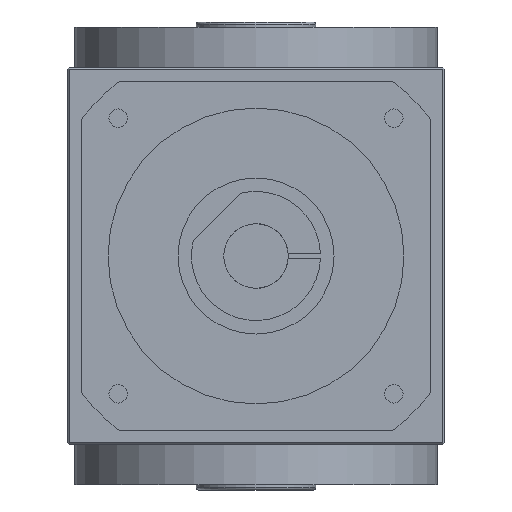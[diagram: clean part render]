
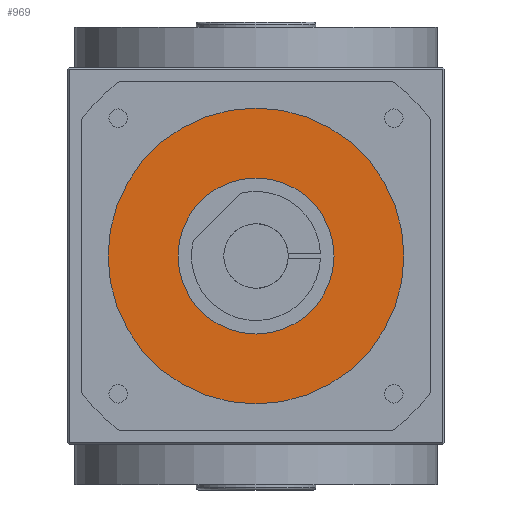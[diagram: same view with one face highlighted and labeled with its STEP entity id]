
A CAD part, front view. The second image highlights one B-rep face of the part: STEP entity #969.
In plain terms, the highlighted planar face has unit normal (0, -1, 0) as drawn and (0, 0, -1) by its records, which use the part's own axes.
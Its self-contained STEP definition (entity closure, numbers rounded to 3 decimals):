
#30 = VERTEX_POINT ( 'NONE', #2663 ) ;
#311 = DIRECTION ( 'NONE',  ( 0., 0., -1. ) ) ;
#969 = ADVANCED_FACE ( 'NONE', ( #8055, #13158 ), #3280, .T. ) ;
#1390 = CARTESIAN_POINT ( 'NONE',  ( 0., 0., -151. ) ) ;
#2486 = EDGE_CURVE ( 'NONE', #14362, #4705, #5961, .T. ) ;
#2663 = CARTESIAN_POINT ( 'NONE',  ( 55., 0., -151. ) ) ;
#2872 = EDGE_CURVE ( 'NONE', #4705, #14362, #3905, .T. ) ;
#3280 = PLANE ( 'NONE',  #15244 ) ;
#3905 = CIRCLE ( 'NONE', #5211, 29. ) ;
#3914 = CARTESIAN_POINT ( 'NONE',  ( 0., 0., -151. ) ) ;
#4245 = CARTESIAN_POINT ( 'NONE',  ( 0., 0., -151. ) ) ;
#4264 = ORIENTED_EDGE ( 'NONE', *, *, #2486, .T. ) ;
#4705 = VERTEX_POINT ( 'NONE', #7140 ) ;
#5211 = AXIS2_PLACEMENT_3D ( 'NONE', #3914, #8935, #13949 ) ;
#5576 = CARTESIAN_POINT ( 'NONE',  ( 0., 0., -151. ) ) ;
#5833 = CARTESIAN_POINT ( 'NONE',  ( -29., 0., -151. ) ) ;
#5961 = CIRCLE ( 'NONE', #15169, 29. ) ;
#6268 = ORIENTED_EDGE ( 'NONE', *, *, #2872, .T. ) ;
#6391 = DIRECTION ( 'NONE',  ( -1., 0., 0. ) ) ;
#6636 = DIRECTION ( 'NONE',  ( 0., 0., -1. ) ) ;
#7006 = EDGE_CURVE ( 'NONE', #30, #11692, #8021, .T. ) ;
#7140 = CARTESIAN_POINT ( 'NONE',  ( 29., 0., -151. ) ) ;
#7489 = AXIS2_PLACEMENT_3D ( 'NONE', #4245, #6636, #13056 ) ;
#7972 = DIRECTION ( 'NONE',  ( 0., 0., -1. ) ) ;
#8021 = CIRCLE ( 'NONE', #14589, 55. ) ;
#8055 = FACE_OUTER_BOUND ( 'NONE', #14355, .T. ) ;
#8935 = DIRECTION ( 'NONE',  ( 0., 0., 1. ) ) ;
#9049 = DIRECTION ( 'NONE',  ( -1., 0., 0. ) ) ;
#9369 = DIRECTION ( 'NONE',  ( -1., 0., 0. ) ) ;
#10336 = EDGE_CURVE ( 'NONE', #11692, #30, #14860, .T. ) ;
#10637 = ORIENTED_EDGE ( 'NONE', *, *, #7006, .T. ) ;
#11692 = VERTEX_POINT ( 'NONE', #15151 ) ;
#12621 = EDGE_LOOP ( 'NONE', ( #4264, #6268 ) ) ;
#12648 = CARTESIAN_POINT ( 'NONE',  ( 0., 0., -151. ) ) ;
#12889 = DIRECTION ( 'NONE',  ( 0., 0., 1. ) ) ;
#13056 = DIRECTION ( 'NONE',  ( -1., 0., 0. ) ) ;
#13158 = FACE_BOUND ( 'NONE', #12621, .T. ) ;
#13173 = ORIENTED_EDGE ( 'NONE', *, *, #10336, .T. ) ;
#13949 = DIRECTION ( 'NONE',  ( -1., 0., 0. ) ) ;
#14355 = EDGE_LOOP ( 'NONE', ( #13173, #10637 ) ) ;
#14362 = VERTEX_POINT ( 'NONE', #5833 ) ;
#14589 = AXIS2_PLACEMENT_3D ( 'NONE', #1390, #311, #9049 ) ;
#14860 = CIRCLE ( 'NONE', #7489, 55. ) ;
#15151 = CARTESIAN_POINT ( 'NONE',  ( -55., 0., -151. ) ) ;
#15169 = AXIS2_PLACEMENT_3D ( 'NONE', #12648, #12889, #6391 ) ;
#15244 = AXIS2_PLACEMENT_3D ( 'NONE', #5576, #7972, #9369 ) ;
